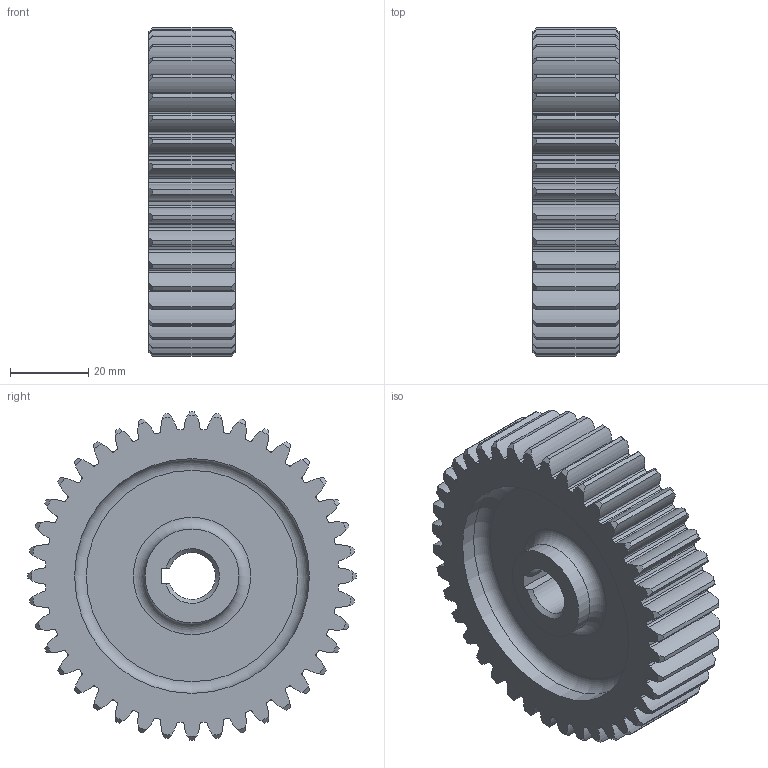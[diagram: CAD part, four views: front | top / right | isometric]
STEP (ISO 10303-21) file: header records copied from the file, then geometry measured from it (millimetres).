
FILE_DESCRIPTION(/* description */ (''),/* implementation_level */ '2;1');
FILE_NAME(/* name */ '',/* time_stamp */ '2024-11-28T15:27:30+09:00',/* author */ ('jhkim'),/* organization */ (''),/* preprocessor_version */ 'ST-DEVELOPER v20',/* originating_system */ 'Autodesk Inventor 2025',/* authorisation */ '');
FILE_SCHEMA (('AUTOMOTIVE_DESIGN { 1 0 10303 214 3 1 1 }'));
Length unit declared in the file: millimetre
Products named in the file (1): 스퍼기어
Bounding box: 22 x 84 x 84 mm (x, y, z)
Volume: 74504.8 mm3; surface area: 24293 mm2
Topology: 1 solids, 1 shells, 340 faces, 1002 edges, 668 vertices
Faces by surface type: cylinder 245, cone 82, plane 9, torus 4
Full cylindrical faces by diameter (mm): 24 x2, 60 x2
Entity records: 11873 total; most frequent: CARTESIAN_POINT 2499, DIRECTION 2104, ORIENTED_EDGE 2004, EDGE_CURVE 1002, AXIS2_PLACEMENT_3D 925, VERTEX_POINT 668, CIRCLE 584, EDGE_LOOP 346
